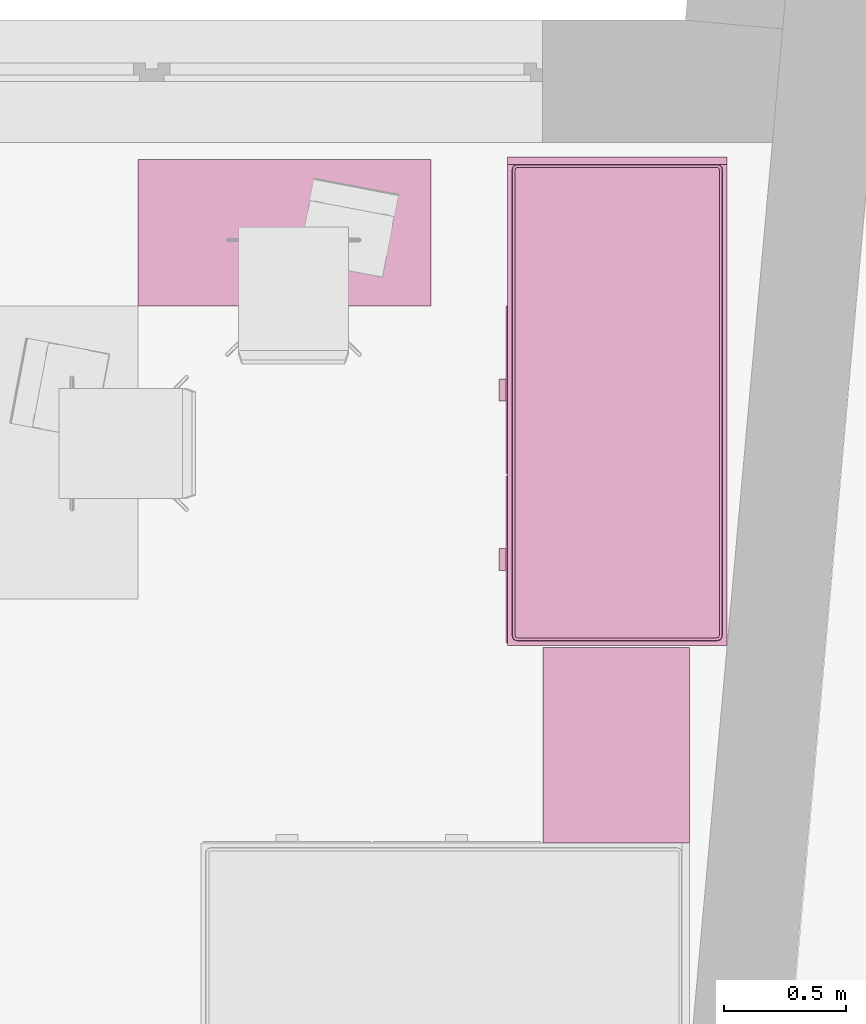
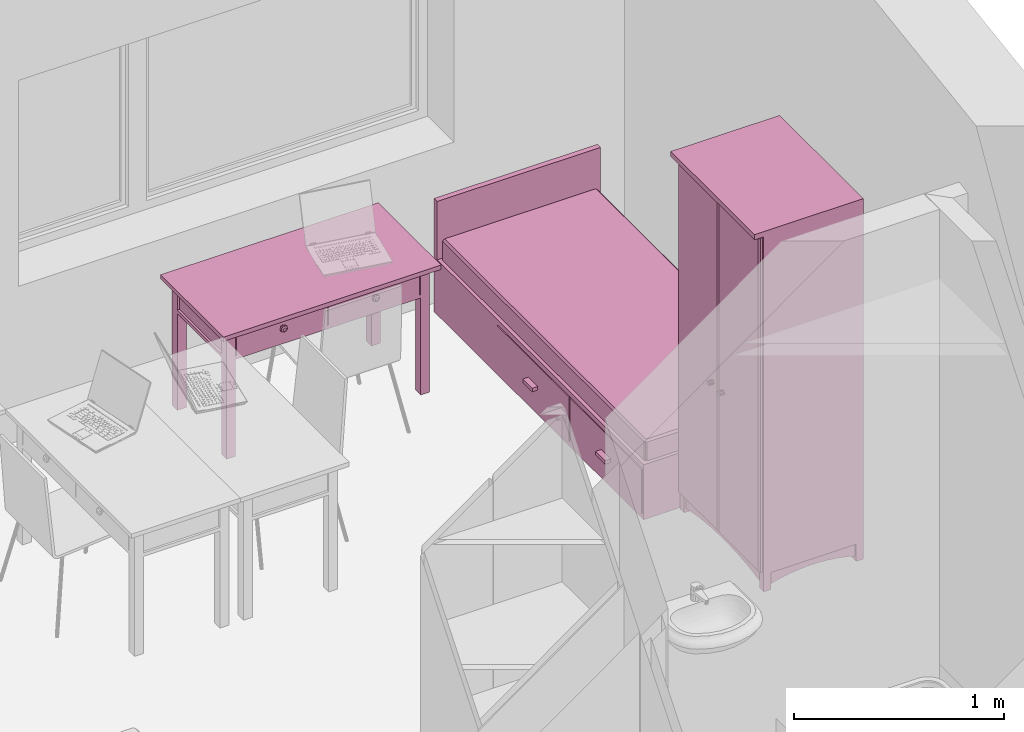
# One storey, part 154 of 172: 3 furnishings.
"""IFC2X3 building model written with IfcOpenShell, lengths in millimetres."""

from ifc_helpers import new_model, entity, si_unit, converted_unit, money_unit, direction, frame, origin_with_axes, place, context, subcontext, project, spatial, faceted_brep, source, transform, mapped, material, material_list, type_object, element, save


model = new_model("IFC2X3")

# Units and contexts
model_context = context("Model", 3, precision=1e-05, world=origin_with_axes(), true_north=direction((0.0, 1.0)))
body_context = subcontext(model_context, "Body", "Model", "MODEL_VIEW")
ifc_project = project(units=[si_unit("LENGTHUNIT", "METRE", prefix="MILLI"), si_unit("AREAUNIT", "SQUARE_METRE"), si_unit("VOLUMEUNIT", "CUBIC_METRE"), converted_unit("PLANEANGLEUNIT", "DEGREE", entity("IfcPlaneAngleMeasure", 0.0174532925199), si_unit("PLANEANGLEUNIT", "RADIAN"), dimensions=[0, 0, 0, 0, 0, 0, 0]), si_unit("SOLIDANGLEUNIT", "STERADIAN"), money_unit("USD"), converted_unit("TIMEUNIT", "Year", entity("IfcTimeMeasure", 31556926.0), si_unit("TIMEUNIT", "SECOND"), dimensions=[0, 0, 0, 0, 0, 0, 0]), si_unit("MASSUNIT", "GRAM"), si_unit("THERMODYNAMICTEMPERATUREUNIT", "DEGREE_CELSIUS"), si_unit("LUMINOUSINTENSITYUNIT", "LUMEN")], contexts=[model_context])

# Site, building, storey
site_placement = place(None, origin_with_axes())
site = spatial("IfcSite", under=ifc_project, at=site_placement, Name="Site", CompositionType="ELEMENT")
building_placement = place(site_placement, origin_with_axes())
building = spatial("IfcBuilding", under=site, at=building_placement, Name="Building", CompositionType="ELEMENT")
storey_placement = place(building_placement, frame((0.0, 0.0, 3200.0), z_axis=(0.0, 0.0, 1.0), x_axis=(1.0, 0.0, 0.0)))
storey = spatial("IfcBuildingStorey", under=building, at=storey_placement, Name="3KORRUS", CompositionType="ELEMENT", Elevation=3200.0)

# Furnishings
ifc_material = material(Name="Background")
ifc_material_list = material_list([ifc_material])
furnishing_element_type_1 = type_object("IfcFurnishingElementType", Name="Cupboard 19")
shared_shape_1 = source(origin_with_axes(), body_context, "Body", "Brep", [
    faceted_brep([(-780.0, 600.0, 120.0), (-780.0, 580.0, 120.0), (-780.0, 580.0, 2050.0), (-780.0, 600.0, 2050.0), (-20.0, 600.0, 120.0), (-20.0, 580.0, 120.0), (-20.0, 580.0, 2050.0), (-20.0, 600.0, 2050.0)], [[[0, 1, 2, 3]], [[0, 4, 5, 1]], [[1, 5, 6, 2]], [[3, 2, 6, 7]], [[4, 0, 3, 7]], [[5, 4, 7, 6]]]),
    faceted_brep([(0.0, 50.0, 100.0), (-20.0, 50.0, 100.0), (-20.0, 600.0, 100.0), (0.0, 600.0, 100.0), (0.0, 50.0, 2070.0), (-20.0, 50.0, 2070.0), (-20.0, 600.0, 2070.0), (0.0, 600.0, 2070.0)], [[[0, 1, 2, 3]], [[1, 0, 4, 5]], [[2, 1, 5, 6]], [[3, 2, 6, 7]], [[0, 3, 7, 4]], [[5, 4, 7, 6]]]),
    faceted_brep([(-780.0, 50.0, 100.0), (-800.0, 50.0, 100.0), (-800.0, 600.0, 100.0), (-780.0, 600.0, 100.0), (-780.0, 50.0, 2070.0), (-800.0, 50.0, 2070.0), (-800.0, 600.0, 2070.0), (-780.0, 600.0, 2070.0)], [[[0, 1, 2, 3]], [[1, 0, 4, 5]], [[2, 1, 5, 6]], [[3, 2, 6, 7]], [[0, 3, 7, 4]], [[5, 4, 7, 6]]]),
    faceted_brep([(-20.0, 50.0, 100.0), (-780.0, 50.0, 100.0), (-780.0, 600.0, 100.0), (-20.0, 600.0, 100.0), (-20.0, 50.0, 120.0), (-780.0, 50.0, 120.0), (-780.0, 600.0, 120.0), (-20.0, 600.0, 120.0)], [[[0, 1, 2, 3]], [[1, 0, 4, 5]], [[2, 1, 5, 6]], [[3, 2, 6, 7]], [[0, 3, 7, 4]], [[5, 4, 7, 6]]]),
    faceted_brep([(-20.0, 50.0, 2050.0), (-780.0, 50.0, 2050.0), (-780.0, 600.0, 2050.0), (-20.0, 600.0, 2050.0), (-20.0, 50.0, 2070.0), (-780.0, 50.0, 2070.0), (-780.0, 600.0, 2070.0), (-20.0, 600.0, 2070.0)], [[[0, 1, 2, 3]], [[1, 0, 4, 5]], [[2, 1, 5, 6]], [[3, 2, 6, 7]], [[0, 3, 7, 4]], [[5, 4, 7, 6]]]),
    faceted_brep([(0.0, 600.0, 2070.0), (0.0, 600.0, 2100.0), (0.0, 0.0, 2100.0), (0.0, 0.0, 2070.0), (-800.0, 600.0, 2070.0), (-800.0, 600.0, 2100.0), (-800.0, 0.0, 2100.0), (-800.0, 0.0, 2070.0)], [[[0, 1, 2, 3]], [[4, 5, 1, 0]], [[1, 5, 6, 2]], [[3, 2, 6, 7]], [[0, 3, 7, 4]], [[7, 6, 5, 4]]]),
    faceted_brep([(-760.0, 590.0, 25.0), (-640.962, 590.0, 45.8), (-640.962, 570.0, 45.8), (-760.0, 570.0, 25.0), (-760.0, 590.0, 100.0), (-40.0, 590.0, 100.0), (-40.0, 590.0, 25.0), (-159.038, 590.0, 45.8), (-279.23, 590.0, 58.32), (-400.0, 590.0, 62.5), (-520.77, 590.0, 58.32), (-520.77, 570.0, 58.32), (-400.0, 570.0, 62.5), (-279.23, 570.0, 58.32), (-159.038, 570.0, 45.8), (-40.0, 570.0, 25.0), (-40.0, 570.0, 100.0), (-760.0, 570.0, 100.0)], [[[0, 1, 2, 3]], [[0, 4, 5, 6, 7, 8, 9, 10, 1]], [[1, 10, 11, 2]], [[3, 2, 11, 12, 13, 14, 15, 16, 17]], [[4, 0, 3, 17]], [[5, 4, 17, 16]], [[6, 5, 16, 15]], [[7, 6, 15, 14]], [[8, 7, 14, 13]], [[9, 8, 13, 12]], [[10, 9, 12, 11]]]),
    faceted_brep([(-760.0, 80.0, 25.0), (-640.962, 80.0, 45.8), (-640.962, 60.0, 45.8), (-760.0, 60.0, 25.0), (-760.0, 80.0, 100.0), (-40.0, 80.0, 100.0), (-40.0, 80.0, 25.0), (-159.038, 80.0, 45.8), (-279.23, 80.0, 58.32), (-400.0, 80.0, 62.5), (-520.77, 80.0, 58.32), (-520.77, 60.0, 58.32), (-400.0, 60.0, 62.5), (-279.23, 60.0, 58.32), (-159.038, 60.0, 45.8), (-40.0, 60.0, 25.0), (-40.0, 60.0, 100.0), (-760.0, 60.0, 100.0)], [[[0, 1, 2, 3]], [[0, 4, 5, 6, 7, 8, 9, 10, 1]], [[1, 10, 11, 2]], [[3, 2, 11, 12, 13, 14, 15, 16, 17]], [[4, 0, 3, 17]], [[5, 4, 17, 16]], [[6, 5, 16, 15]], [[7, 6, 15, 14]], [[8, 7, 14, 13]], [[9, 8, 13, 12]], [[10, 9, 12, 11]]]),
    faceted_brep([(-790.0, 90.0, 25.0), (-790.0, 141.266, 38.072), (-770.0, 141.266, 38.072), (-770.0, 90.0, 25.0), (-790.0, 90.0, 100.0), (-790.0, 560.0, 100.0), (-790.0, 560.0, 25.0), (-790.0, 508.734, 38.072), (-790.0, 456.752, 47.92), (-790.0, 404.257, 54.508), (-790.0, 351.453, 57.808), (-790.0, 298.547, 57.808), (-790.0, 245.743, 54.508), (-790.0, 193.248, 47.92), (-770.0, 193.248, 47.92), (-770.0, 245.743, 54.508), (-770.0, 298.547, 57.808), (-770.0, 351.453, 57.808), (-770.0, 404.257, 54.508), (-770.0, 456.752, 47.92), (-770.0, 508.734, 38.072), (-770.0, 560.0, 25.0), (-770.0, 560.0, 100.0), (-770.0, 90.0, 100.0)], [[[0, 1, 2, 3]], [[0, 4, 5, 6, 7, 8, 9, 10, 11, 12, 13, 1]], [[1, 13, 14, 2]], [[3, 2, 14, 15, 16, 17, 18, 19, 20, 21, 22, 23]], [[4, 0, 3, 23]], [[5, 4, 23, 22]], [[6, 5, 22, 21]], [[7, 6, 21, 20]], [[8, 7, 20, 19]], [[9, 8, 19, 18]], [[10, 9, 18, 17]], [[11, 10, 17, 16]], [[12, 11, 16, 15]], [[13, 12, 15, 14]]]),
    faceted_brep([(-30.0, 90.0, 25.0), (-30.0, 141.266, 38.072), (-10.0, 141.266, 38.072), (-10.0, 90.0, 25.0), (-30.0, 90.0, 100.0), (-30.0, 560.0, 100.0), (-30.0, 560.0, 25.0), (-30.0, 508.734, 38.072), (-30.0, 456.752, 47.92), (-30.0, 404.257, 54.508), (-30.0, 351.453, 57.808), (-30.0, 298.547, 57.808), (-30.0, 245.743, 54.508), (-30.0, 193.248, 47.92), (-10.0, 193.248, 47.92), (-10.0, 245.743, 54.508), (-10.0, 298.547, 57.808), (-10.0, 351.453, 57.808), (-10.0, 404.257, 54.508), (-10.0, 456.752, 47.92), (-10.0, 508.734, 38.072), (-10.0, 560.0, 25.0), (-10.0, 560.0, 100.0), (-10.0, 90.0, 100.0)], [[[0, 1, 2, 3]], [[0, 4, 5, 6, 7, 8, 9, 10, 11, 12, 13, 1]], [[1, 13, 14, 2]], [[3, 2, 14, 15, 16, 17, 18, 19, 20, 21, 22, 23]], [[4, 0, 3, 23]], [[5, 4, 23, 22]], [[6, 5, 22, 21]], [[7, 6, 21, 20]], [[8, 7, 20, 19]], [[9, 8, 19, 18]], [[10, 9, 18, 17]], [[11, 10, 17, 16]], [[12, 11, 16, 15]], [[13, 12, 15, 14]]]),
    faceted_brep([(-760.0, 560.0, 0.0), (-760.0, 600.0, 0.0), (-760.0, 600.0, 100.0), (-760.0, 560.0, 100.0), (-800.0, 560.0, 0.0), (-800.0, 600.0, 0.0), (-800.0, 600.0, 100.0), (-800.0, 560.0, 100.0)], [[[0, 1, 2, 3]], [[0, 4, 5, 1]], [[1, 5, 6, 2]], [[3, 2, 6, 7]], [[4, 0, 3, 7]], [[5, 4, 7, 6]]]),
    faceted_brep([(0.0, 560.0, 0.0), (0.0, 600.0, 0.0), (0.0, 600.0, 100.0), (0.0, 560.0, 100.0), (-40.0, 560.0, 0.0), (-40.0, 600.0, 0.0), (-40.0, 600.0, 100.0), (-40.0, 560.0, 100.0)], [[[0, 1, 2, 3]], [[0, 4, 5, 1]], [[1, 5, 6, 2]], [[3, 2, 6, 7]], [[4, 0, 3, 7]], [[5, 4, 7, 6]]]),
    faceted_brep([(-760.0, 50.0, 0.0), (-760.0, 90.0, 0.0), (-760.0, 90.0, 100.0), (-760.0, 50.0, 100.0), (-800.0, 50.0, 0.0), (-800.0, 90.0, 0.0), (-800.0, 90.0, 100.0), (-800.0, 50.0, 100.0)], [[[0, 1, 2, 3]], [[0, 4, 5, 1]], [[1, 5, 6, 2]], [[3, 2, 6, 7]], [[4, 0, 3, 7]], [[5, 4, 7, 6]]]),
    faceted_brep([(0.0, 50.0, 0.0), (0.0, 90.0, 0.0), (0.0, 90.0, 100.0), (0.0, 50.0, 100.0), (-40.0, 50.0, 0.0), (-40.0, 90.0, 0.0), (-40.0, 90.0, 100.0), (-40.0, 50.0, 100.0)], [[[0, 1, 2, 3]], [[0, 4, 5, 1]], [[1, 5, 6, 2]], [[3, 2, 6, 7]], [[4, 0, 3, 7]], [[5, 4, 7, 6]]]),
    faceted_brep([(-780.0, 580.0, 587.5), (-780.0, 50.0, 587.5), (-780.0, 50.0, 607.5), (-780.0, 580.0, 607.5), (-20.0, 580.0, 587.5), (-20.0, 50.0, 587.5), (-20.0, 50.0, 607.5), (-20.0, 580.0, 607.5)], [[[0, 1, 2, 3]], [[0, 4, 5, 1]], [[1, 5, 6, 2]], [[3, 2, 6, 7]], [[4, 0, 3, 7]], [[5, 4, 7, 6]]]),
    faceted_brep([(-780.0, 580.0, 1075.0), (-780.0, 50.0, 1075.0), (-780.0, 50.0, 1095.0), (-780.0, 580.0, 1095.0), (-20.0, 580.0, 1075.0), (-20.0, 50.0, 1075.0), (-20.0, 50.0, 1095.0), (-20.0, 580.0, 1095.0)], [[[0, 1, 2, 3]], [[0, 4, 5, 1]], [[1, 5, 6, 2]], [[3, 2, 6, 7]], [[4, 0, 3, 7]], [[5, 4, 7, 6]]]),
    faceted_brep([(-780.0, 580.0, 1562.5), (-780.0, 50.0, 1562.5), (-780.0, 50.0, 1582.5), (-780.0, 580.0, 1582.5), (-20.0, 580.0, 1562.5), (-20.0, 50.0, 1562.5), (-20.0, 50.0, 1582.5), (-20.0, 580.0, 1582.5)], [[[0, 1, 2, 3]], [[0, 4, 5, 1]], [[1, 5, 6, 2]], [[3, 2, 6, 7]], [[4, 0, 3, 7]], [[5, 4, 7, 6]]]),
    faceted_brep([(-789.5, 50.0, 110.5), (-789.5, 50.0, 2059.5), (-400.5, 50.0, 2059.5), (-400.5, 50.0, 110.5), (-789.5, 40.0, 110.5), (-789.5, 40.0, 2059.5), (-400.5, 40.0, 2059.5), (-400.5, 40.0, 110.5), (-779.5, 30.0, 120.5), (-779.5, 30.0, 2049.5), (-410.5, 30.0, 2049.5), (-410.5, 30.0, 120.5)], [[[0, 1, 2, 3]], [[1, 0, 4, 5]], [[2, 1, 5, 6]], [[3, 2, 6, 7]], [[0, 3, 7, 4]], [[5, 4, 8, 9]], [[6, 5, 9, 10]], [[7, 6, 10, 11]], [[4, 7, 11, 8]], [[10, 9, 8, 11]]]),
    faceted_brep([(-399.5, 50.0, 110.5), (-399.5, 50.0, 2059.5), (-10.5, 50.0, 2059.5), (-10.5, 50.0, 110.5), (-399.5, 40.0, 110.5), (-399.5, 40.0, 2059.5), (-10.5, 40.0, 2059.5), (-10.5, 40.0, 110.5), (-389.5, 30.0, 120.5), (-389.5, 30.0, 2049.5), (-20.5, 30.0, 2049.5), (-20.5, 30.0, 120.5)], [[[0, 1, 2, 3]], [[1, 0, 4, 5]], [[2, 1, 5, 6]], [[3, 2, 6, 7]], [[0, 3, 7, 4]], [[5, 4, 8, 9]], [[6, 5, 9, 10]], [[7, 6, 10, 11]], [[4, 7, 11, 8]], [[10, 9, 8, 11]]]),
    faceted_brep([(-339.608, 30.0, 954.0), (-344.0, 30.0, 949.608), (-350.0, 30.0, 948.0), (-356.0, 30.0, 949.608), (-360.392, 30.0, 954.0), (-362.0, 30.0, 960.0), (-360.392, 30.0, 966.0), (-356.0, 30.0, 970.392), (-350.0, 30.0, 972.0), (-344.0, 30.0, 970.392), (-339.608, 30.0, 966.0), (-338.0, 30.0, 960.0), (-339.608, 5.0, 954.0), (-344.0, 5.0, 949.608), (-350.0, 5.0, 948.0), (-356.0, 5.0, 949.608), (-360.392, 5.0, 954.0), (-362.0, 5.0, 960.0), (-360.392, 5.0, 966.0), (-356.0, 5.0, 970.392), (-350.0, 5.0, 972.0), (-344.0, 5.0, 970.392), (-339.608, 5.0, 966.0), (-338.0, 5.0, 960.0)], [[[0, 1, 2, 3, 4, 5, 6, 7, 8, 9, 10, 11]], [[1, 0, 12, 13]], [[2, 1, 13, 14]], [[3, 2, 14, 15]], [[4, 3, 15, 16]], [[5, 4, 16, 17]], [[6, 5, 17, 18]], [[7, 6, 18, 19]], [[8, 7, 19, 20]], [[9, 8, 20, 21]], [[10, 9, 21, 22]], [[11, 10, 22, 23]], [[0, 11, 23, 12]], [[12, 23, 22, 21, 20, 19, 18, 17, 16, 15, 14, 13]]]),
    faceted_brep([(-460.392, 30.0, 954.0), (-462.0, 30.0, 960.0), (-460.392, 30.0, 966.0), (-456.0, 30.0, 970.392), (-450.0, 30.0, 972.0), (-444.0, 30.0, 970.392), (-439.608, 30.0, 966.0), (-438.0, 30.0, 960.0), (-439.608, 30.0, 954.0), (-444.0, 30.0, 949.608), (-450.0, 30.0, 948.0), (-456.0, 30.0, 949.608), (-460.392, 5.0, 954.0), (-462.0, 5.0, 960.0), (-460.392, 5.0, 966.0), (-456.0, 5.0, 970.392), (-450.0, 5.0, 972.0), (-444.0, 5.0, 970.392), (-439.608, 5.0, 966.0), (-438.0, 5.0, 960.0), (-439.608, 5.0, 954.0), (-444.0, 5.0, 949.608), (-450.0, 5.0, 948.0), (-456.0, 5.0, 949.608)], [[[0, 1, 2, 3, 4, 5, 6, 7, 8, 9, 10, 11]], [[0, 12, 13, 1]], [[1, 13, 14, 2]], [[2, 14, 15, 3]], [[3, 15, 16, 4]], [[4, 16, 17, 5]], [[5, 17, 18, 6]], [[6, 18, 19, 7]], [[7, 19, 20, 8]], [[8, 20, 21, 9]], [[9, 21, 22, 10]], [[10, 22, 23, 11]], [[11, 23, 12, 0]], [[12, 23, 22, 21, 20, 19, 18, 17, 16, 15, 14, 13]]]),
])
furnishing_1_placement = place(storey_placement, frame((17405.2633787, -8007.54794148, 0.0), z_axis=(0.0, 0.0, 1.0), x_axis=(0.0, -1.0, 0.0)))
element("IfcFurnishingElement", 1, at=furnishing_1_placement, inside=storey, type_object=furnishing_element_type_1, material=ifc_material_list, Name="FU - 014", context=body_context, shape_type="MappedRepresentation", body=[
    mapped(shared_shape_1, transform((0.0, 0.0, 0.0))),
])
furnishing_element_type_2 = type_object("IfcFurnishingElementType", Name="Bed 19")
shared_shape_2 = source(origin_with_axes(), body_context, "Body", "Brep", [
    faceted_brep([(-900.0, 1970.0, 0.0), (-900.0, 2000.0, 0.0), (0.0, 2000.0, 0.0), (0.0, 1970.0, 0.0), (-900.0, 1970.0, 660.0), (-900.0, 2000.0, 660.0), (0.0, 2000.0, 660.0), (0.0, 1970.0, 660.0)], [[[0, 1, 2, 3]], [[0, 4, 5, 1]], [[1, 5, 6, 2]], [[2, 6, 7, 3]], [[3, 7, 4, 0]], [[7, 6, 5, 4]]]),
    faceted_brep([(-900.0, 0.0, 0.0), (-900.0, 1970.0, 0.0), (0.0, 1970.0, 0.0), (0.0, 0.0, 0.0), (-900.0, 0.0, 320.0), (-900.0, 1970.0, 320.0), (0.0, 1970.0, 320.0), (0.0, 0.0, 320.0)], [[[0, 1, 2, 3]], [[0, 4, 5, 1]], [[1, 5, 6, 2]], [[2, 6, 7, 3]], [[3, 7, 4, 0]], [[7, 6, 5, 4]]]),
    faceted_brep([(-905.0, 10.0, 30.0), (-905.0, 695.0, 30.0), (-900.0, 695.0, 30.0), (-900.0, 10.0, 30.0), (-905.0, 10.0, 290.0), (-905.0, 695.0, 290.0), (-900.0, 695.0, 290.0), (-900.0, 10.0, 290.0)], [[[0, 1, 2, 3]], [[0, 4, 5, 1]], [[1, 5, 6, 2]], [[2, 6, 7, 3]], [[3, 7, 4, 0]], [[7, 6, 5, 4]]]),
    faceted_brep([(-935.0, 307.5, 150.0), (-935.0, 397.5, 150.0), (-905.0, 397.5, 150.0), (-905.0, 307.5, 150.0), (-935.0, 307.5, 170.0), (-935.0, 397.5, 170.0), (-905.0, 397.5, 170.0), (-905.0, 307.5, 170.0)], [[[0, 1, 2, 3]], [[0, 4, 5, 1]], [[1, 5, 6, 2]], [[2, 6, 7, 3]], [[3, 7, 4, 0]], [[7, 6, 5, 4]]]),
    faceted_brep([(-905.0, 705.0, 30.0), (-905.0, 1390.0, 30.0), (-900.0, 1390.0, 30.0), (-900.0, 705.0, 30.0), (-905.0, 705.0, 290.0), (-905.0, 1390.0, 290.0), (-900.0, 1390.0, 290.0), (-900.0, 705.0, 290.0)], [[[0, 1, 2, 3]], [[0, 4, 5, 1]], [[1, 5, 6, 2]], [[2, 6, 7, 3]], [[3, 7, 4, 0]], [[7, 6, 5, 4]]]),
    faceted_brep([(-935.0, 1002.5, 150.0), (-935.0, 1092.5, 150.0), (-905.0, 1092.5, 150.0), (-905.0, 1002.5, 150.0), (-935.0, 1002.5, 170.0), (-935.0, 1092.5, 170.0), (-905.0, 1092.5, 170.0), (-905.0, 1002.5, 170.0)], [[[0, 1, 2, 3]], [[0, 4, 5, 1]], [[1, 5, 6, 2]], [[2, 6, 7, 3]], [[3, 7, 4, 0]], [[7, 6, 5, 4]]]),
    faceted_brep([(-20.0, 40.0, 350.0), (-21.522, 32.346, 350.0), (-25.858, 25.858, 350.0), (-32.346, 21.522, 350.0), (-40.0, 20.0, 350.0), (-860.0, 20.0, 350.0), (-867.654, 21.522, 350.0), (-874.142, 25.858, 350.0), (-878.478, 32.346, 350.0), (-880.0, 40.0, 350.0), (-880.0, 1950.0, 350.0), (-878.478, 1957.654, 350.0), (-874.142, 1964.142, 350.0), (-867.654, 1968.478, 350.0), (-860.0, 1970.0, 350.0), (-40.0, 1970.0, 350.0), (-32.346, 1968.478, 350.0), (-25.858, 1964.142, 350.0), (-21.522, 1957.654, 350.0), (-20.0, 1950.0, 350.0), (-20.0, 40.0, 420.0), (-21.522, 32.346, 420.0), (-25.858, 25.858, 420.0), (-32.346, 21.522, 420.0), (-40.0, 20.0, 420.0), (-860.0, 20.0, 420.0), (-867.654, 21.522, 420.0), (-874.142, 25.858, 420.0), (-878.478, 32.346, 420.0), (-880.0, 40.0, 420.0), (-880.0, 1950.0, 420.0), (-878.478, 1957.654, 420.0), (-874.142, 1964.142, 420.0), (-867.654, 1968.478, 420.0), (-860.0, 1970.0, 420.0), (-40.0, 1970.0, 420.0), (-32.346, 1968.478, 420.0), (-25.858, 1964.142, 420.0), (-21.522, 1957.654, 420.0), (-20.0, 1950.0, 420.0), (-21.522, 40.15, 427.654), (-22.956, 32.94, 427.654), (-26.955, 26.955, 427.654), (-32.94, 22.956, 427.654), (-40.15, 21.522, 427.654), (-859.85, 21.522, 427.654), (-867.06, 22.956, 427.654), (-873.045, 26.955, 427.654), (-877.044, 32.94, 427.654), (-878.478, 40.15, 427.654), (-878.478, 1949.85, 427.654), (-877.044, 1957.06, 427.654), (-873.045, 1963.045, 427.654), (-867.06, 1967.044, 427.654), (-859.85, 1968.478, 427.654), (-40.15, 1968.478, 427.654), (-32.94, 1967.044, 427.654), (-26.955, 1963.045, 427.654), (-22.956, 1957.06, 427.654), (-21.522, 1949.85, 427.654), (-32.346, 41.216, 438.478), (-33.152, 37.164, 438.478), (-34.759, 34.759, 438.478), (-37.164, 33.152, 438.478), (-41.216, 32.346, 438.478), (-858.784, 32.346, 438.478), (-862.836, 33.152, 438.478), (-865.241, 34.759, 438.478), (-866.848, 37.164, 438.478), (-867.654, 41.216, 438.478), (-867.654, 1948.784, 438.478), (-866.848, 1952.836, 438.478), (-865.241, 1955.241, 438.478), (-862.836, 1956.848, 438.478), (-858.784, 1957.654, 438.478), (-41.216, 1957.654, 438.478), (-37.164, 1956.848, 438.478), (-34.759, 1955.241, 438.478), (-33.152, 1952.836, 438.478), (-32.346, 1948.784, 438.478), (-40.0, 41.97, 440.0), (-40.327, 40.327, 440.0), (-40.0, 40.0, 439.924), (-41.97, 40.0, 440.0), (-858.03, 40.0, 440.0), (-859.673, 40.327, 440.0), (-860.0, 40.0, 439.924), (-860.0, 41.97, 440.0), (-860.0, 1948.03, 440.0), (-859.673, 1949.673, 440.0), (-860.0, 1950.0, 439.924), (-858.03, 1950.0, 440.0), (-41.97, 1950.0, 440.0), (-40.327, 1949.673, 440.0), (-40.0, 1950.0, 439.924), (-40.0, 1948.03, 440.0)], [[[0, 1, 2, 3, 4, 5, 6, 7, 8, 9, 10, 11, 12, 13, 14, 15, 16, 17, 18, 19]], [[0, 20, 21, 1]], [[1, 21, 22, 2]], [[2, 22, 23, 3]], [[3, 23, 24, 4]], [[4, 24, 25, 5]], [[5, 25, 26, 6]], [[6, 26, 27, 7]], [[7, 27, 28, 8]], [[8, 28, 29, 9]], [[9, 29, 30, 10]], [[10, 30, 31, 11]], [[11, 31, 32, 12]], [[12, 32, 33, 13]], [[13, 33, 34, 14]], [[14, 34, 35, 15]], [[15, 35, 36, 16]], [[16, 36, 37, 17]], [[17, 37, 38, 18]], [[18, 38, 39, 19]], [[19, 39, 20, 0]], [[20, 40, 41, 21]], [[21, 41, 42, 22]], [[22, 42, 43, 23]], [[23, 43, 44, 24]], [[24, 44, 45, 25]], [[25, 45, 46, 26]], [[26, 46, 47, 27]], [[27, 47, 48, 28]], [[28, 48, 49, 29]], [[29, 49, 50, 30]], [[30, 50, 51, 31]], [[31, 51, 52, 32]], [[32, 52, 53, 33]], [[33, 53, 54, 34]], [[34, 54, 55, 35]], [[35, 55, 56, 36]], [[36, 56, 57, 37]], [[37, 57, 58, 38]], [[38, 58, 59, 39]], [[39, 59, 40, 20]], [[40, 60, 61, 41]], [[41, 61, 62, 42]], [[42, 62, 63, 43]], [[43, 63, 64, 44]], [[44, 64, 65, 45]], [[45, 65, 66, 46]], [[46, 66, 67, 47]], [[47, 67, 68, 48]], [[48, 68, 69, 49]], [[49, 69, 70, 50]], [[50, 70, 71, 51]], [[51, 71, 72, 52]], [[52, 72, 73, 53]], [[53, 73, 74, 54]], [[54, 74, 75, 55]], [[55, 75, 76, 56]], [[56, 76, 77, 57]], [[57, 77, 78, 58]], [[58, 78, 79, 59]], [[59, 79, 60, 40]], [[60, 80, 81, 82, 61]], [[61, 82, 62]], [[62, 82, 63]], [[63, 82, 81, 83, 64]], [[64, 83, 84, 65]], [[65, 84, 85, 86, 66]], [[66, 86, 67]], [[67, 86, 68]], [[68, 86, 85, 87, 69]], [[69, 87, 88, 70]], [[70, 88, 89, 90, 71]], [[71, 90, 72]], [[72, 90, 73]], [[73, 90, 89, 91, 74]], [[74, 91, 92, 75]], [[75, 92, 93, 94, 76]], [[76, 94, 77]], [[77, 94, 78]], [[78, 94, 93, 95, 79]], [[79, 95, 80, 60]], [[95, 93, 92, 91, 89, 88, 87, 85, 84, 83, 81, 80]]]),
    faceted_brep([(-20.0, 40.0, 350.0), (-20.0, 1950.0, 350.0), (-21.522, 1957.654, 350.0), (-25.858, 1964.142, 350.0), (-32.346, 1968.478, 350.0), (-40.0, 1970.0, 350.0), (-860.0, 1970.0, 350.0), (-867.654, 1968.478, 350.0), (-874.142, 1964.142, 350.0), (-878.478, 1957.654, 350.0), (-880.0, 1950.0, 350.0), (-880.0, 40.0, 350.0), (-878.478, 32.346, 350.0), (-874.142, 25.858, 350.0), (-867.654, 21.522, 350.0), (-860.0, 20.0, 350.0), (-40.0, 20.0, 350.0), (-32.346, 21.522, 350.0), (-25.858, 25.858, 350.0), (-21.522, 32.346, 350.0), (-20.0, 40.0, 320.0), (-20.0, 1950.0, 320.0), (-21.522, 1957.654, 320.0), (-25.858, 1964.142, 320.0), (-32.346, 1968.478, 320.0), (-40.0, 1970.0, 320.0), (-860.0, 1970.0, 320.0), (-867.654, 1968.478, 320.0), (-874.142, 1964.142, 320.0), (-878.478, 1957.654, 320.0), (-880.0, 1950.0, 320.0), (-880.0, 40.0, 320.0), (-878.478, 32.346, 320.0), (-874.142, 25.858, 320.0), (-867.654, 21.522, 320.0), (-860.0, 20.0, 320.0), (-40.0, 20.0, 320.0), (-32.346, 21.522, 320.0), (-25.858, 25.858, 320.0), (-21.522, 32.346, 320.0)], [[[0, 1, 2, 3, 4, 5, 6, 7, 8, 9, 10, 11, 12, 13, 14, 15, 16, 17, 18, 19]], [[1, 0, 20, 21]], [[2, 1, 21, 22]], [[3, 2, 22, 23]], [[4, 3, 23, 24]], [[5, 4, 24, 25]], [[6, 5, 25, 26]], [[7, 6, 26, 27]], [[8, 7, 27, 28]], [[9, 8, 28, 29]], [[10, 9, 29, 30]], [[11, 10, 30, 31]], [[12, 11, 31, 32]], [[13, 12, 32, 33]], [[14, 13, 33, 34]], [[15, 14, 34, 35]], [[16, 15, 35, 36]], [[17, 16, 36, 37]], [[18, 17, 37, 38]], [[19, 18, 38, 39]], [[0, 19, 39, 20]], [[20, 39, 38, 37, 36, 35, 34, 33, 32, 31, 30, 29, 28, 27, 26, 25, 24, 23, 22, 21]]]),
])
furnishing_2_placement = place(storey_placement, frame((18160.00296, -7200.27456091, 0.0), z_axis=(0.0, 0.0, 1.0), x_axis=(1.0, 0.0, 0.0)))
element("IfcFurnishingElement", 2, at=furnishing_2_placement, inside=storey, type_object=furnishing_element_type_2, material=ifc_material_list, Name="FU - 013", context=body_context, shape_type="MappedRepresentation", body=[
    mapped(shared_shape_2, transform((0.0, 0.0, 0.0))),
])
furnishing_element_type_3 = type_object("IfcFurnishingElementType", Name="Rectangular Table 01 19")
shared_shape_3 = source(origin_with_axes(), body_context, "Body", "Brep", [
    faceted_brep([(-90.0, 40.0, 0.0), (-90.0, 90.0, 0.0), (-40.0, 90.0, 0.0), (-40.0, 40.0, 0.0), (-90.0, 40.0, 725.0), (-90.0, 90.0, 725.0), (-40.0, 90.0, 725.0), (-40.0, 40.0, 725.0)], [[[0, 1, 2, 3]], [[0, 4, 5, 1]], [[1, 5, 6, 2]], [[2, 6, 7, 3]], [[3, 7, 4, 0]], [[7, 6, 5, 4]]]),
    faceted_brep([(-1160.0, 40.0, 0.0), (-1160.0, 90.0, 0.0), (-1110.0, 90.0, 0.0), (-1110.0, 40.0, 0.0), (-1160.0, 40.0, 725.0), (-1160.0, 90.0, 725.0), (-1110.0, 90.0, 725.0), (-1110.0, 40.0, 725.0)], [[[0, 1, 2, 3]], [[0, 4, 5, 1]], [[1, 5, 6, 2]], [[2, 6, 7, 3]], [[3, 7, 4, 0]], [[7, 6, 5, 4]]]),
    faceted_brep([(-90.0, 510.0, 0.0), (-90.0, 560.0, 0.0), (-40.0, 560.0, 0.0), (-40.0, 510.0, 0.0), (-90.0, 510.0, 725.0), (-90.0, 560.0, 725.0), (-40.0, 560.0, 725.0), (-40.0, 510.0, 725.0)], [[[0, 1, 2, 3]], [[0, 4, 5, 1]], [[1, 5, 6, 2]], [[2, 6, 7, 3]], [[3, 7, 4, 0]], [[7, 6, 5, 4]]]),
    faceted_brep([(-1160.0, 510.0, 0.0), (-1160.0, 560.0, 0.0), (-1110.0, 560.0, 0.0), (-1110.0, 510.0, 0.0), (-1160.0, 510.0, 725.0), (-1160.0, 560.0, 725.0), (-1110.0, 560.0, 725.0), (-1110.0, 510.0, 725.0)], [[[0, 1, 2, 3]], [[0, 4, 5, 1]], [[1, 5, 6, 2]], [[2, 6, 7, 3]], [[3, 7, 4, 0]], [[7, 6, 5, 4]]]),
    faceted_brep([(-1160.0, 40.0, 565.0), (-1160.0, 560.0, 565.0), (-40.0, 560.0, 565.0), (-40.0, 40.0, 565.0), (-1160.0, 40.0, 585.0), (-1160.0, 560.0, 585.0), (-40.0, 560.0, 585.0), (-40.0, 40.0, 585.0)], [[[0, 1, 2, 3]], [[0, 4, 5, 1]], [[1, 5, 6, 2]], [[2, 6, 7, 3]], [[3, 7, 4, 0]], [[7, 6, 5, 4]]]),
    faceted_brep([(-1110.0, 52.5, 585.0), (-1110.0, 77.5, 585.0), (-90.0, 77.5, 585.0), (-90.0, 52.5, 585.0), (-1110.0, 52.5, 745.0), (-1110.0, 77.5, 745.0), (-90.0, 77.5, 745.0), (-90.0, 52.5, 745.0)], [[[0, 1, 2, 3]], [[0, 4, 5, 1]], [[1, 5, 6, 2]], [[2, 6, 7, 3]], [[3, 7, 4, 0]], [[7, 6, 5, 4]]]),
    faceted_brep([(-77.5, 90.0, 585.0), (-77.5, 510.0, 585.0), (-52.5, 510.0, 585.0), (-52.5, 90.0, 585.0), (-77.5, 90.0, 745.0), (-77.5, 510.0, 745.0), (-52.5, 510.0, 745.0), (-52.5, 90.0, 745.0)], [[[0, 1, 2, 3]], [[0, 4, 5, 1]], [[1, 5, 6, 2]], [[2, 6, 7, 3]], [[3, 7, 4, 0]], [[7, 6, 5, 4]]]),
    faceted_brep([(-90.0, 547.5, 585.0), (-90.0, 522.5, 585.0), (-1110.0, 522.5, 585.0), (-1110.0, 547.5, 585.0), (-90.0, 547.5, 745.0), (-90.0, 522.5, 745.0), (-1110.0, 522.5, 745.0), (-1110.0, 547.5, 745.0)], [[[0, 1, 2, 3]], [[0, 4, 5, 1]], [[1, 5, 6, 2]], [[2, 6, 7, 3]], [[3, 7, 4, 0]], [[7, 6, 5, 4]]]),
    faceted_brep([(-1122.5, 510.0, 585.0), (-1122.5, 90.0, 585.0), (-1147.5, 90.0, 585.0), (-1147.5, 510.0, 585.0), (-1122.5, 510.0, 745.0), (-1122.5, 90.0, 745.0), (-1147.5, 90.0, 745.0), (-1147.5, 510.0, 745.0)], [[[0, 1, 2, 3]], [[0, 4, 5, 1]], [[1, 5, 6, 2]], [[2, 6, 7, 3]], [[3, 7, 4, 0]], [[7, 6, 5, 4]]]),
    faceted_brep([(-597.5, 40.0, 585.0), (-597.5, 60.0, 585.0), (-95.0, 60.0, 585.0), (-95.0, 40.0, 585.0), (-597.5, 40.0, 745.0), (-597.5, 60.0, 745.0), (-95.0, 60.0, 745.0), (-95.0, 40.0, 745.0)], [[[0, 1, 2, 3]], [[0, 4, 5, 1]], [[1, 5, 6, 2]], [[2, 6, 7, 3]], [[3, 7, 4, 0]], [[7, 6, 5, 4]]]),
    faceted_brep([(-1105.0, 40.0, 585.0), (-1105.0, 60.0, 585.0), (-602.5, 60.0, 585.0), (-602.5, 40.0, 585.0), (-1105.0, 40.0, 745.0), (-1105.0, 60.0, 745.0), (-602.5, 60.0, 745.0), (-602.5, 40.0, 745.0)], [[[0, 1, 2, 3]], [[0, 4, 5, 1]], [[1, 5, 6, 2]], [[2, 6, 7, 3]], [[3, 7, 4, 0]], [[7, 6, 5, 4]]]),
    faceted_brep([(-354.91, 40.0, 660.0), (-356.25, 40.0, 665.0), (-354.91, 40.0, 670.0), (-351.25, 40.0, 673.66), (-346.25, 40.0, 675.0), (-341.25, 40.0, 673.66), (-337.59, 40.0, 670.0), (-336.25, 40.0, 665.0), (-337.59, 40.0, 660.0), (-341.25, 40.0, 656.34), (-346.25, 40.0, 655.0), (-351.25, 40.0, 656.34), (-354.91, 25.0, 660.0), (-356.25, 25.0, 665.0), (-354.91, 25.0, 670.0), (-351.25, 25.0, 673.66), (-346.25, 25.0, 675.0), (-341.25, 25.0, 673.66), (-337.59, 25.0, 670.0), (-336.25, 25.0, 665.0), (-337.59, 25.0, 660.0), (-341.25, 25.0, 656.34), (-346.25, 25.0, 655.0), (-351.25, 25.0, 656.34)], [[[0, 1, 2, 3, 4, 5, 6, 7, 8, 9, 10, 11]], [[0, 12, 13, 1]], [[1, 13, 14, 2]], [[2, 14, 15, 3]], [[3, 15, 16, 4]], [[4, 16, 17, 5]], [[5, 17, 18, 6]], [[6, 18, 19, 7]], [[7, 19, 20, 8]], [[8, 20, 21, 9]], [[9, 21, 22, 10]], [[10, 22, 23, 11]], [[11, 23, 12, 0]], [[12, 23, 22, 21, 20, 19, 18, 17, 16, 15, 14, 13]]]),
    faceted_brep([(-356.25, 12.01, 665.0), (-354.91, 12.01, 660.0), (-346.25, 10.0, 665.0), (-363.571, 17.5, 665.0), (-361.25, 17.5, 656.34), (-351.25, 12.01, 656.34), (-354.91, 12.01, 670.0), (-366.25, 25.0, 665.0), (-363.571, 25.0, 655.0), (-354.91, 17.5, 650.0), (-361.25, 17.5, 673.66), (-346.25, 12.01, 655.0), (-351.25, 12.01, 673.66), (-363.571, 25.0, 675.0), (-356.25, 25.0, 682.321), (-346.25, 25.0, 685.0), (-336.25, 25.0, 682.321), (-328.929, 25.0, 675.0), (-326.25, 25.0, 665.0), (-328.929, 25.0, 655.0), (-336.25, 25.0, 647.679), (-346.25, 25.0, 645.0), (-356.25, 25.0, 647.679), (-346.25, 17.5, 647.679), (-354.91, 17.5, 680.0), (-341.25, 12.01, 656.34), (-346.25, 12.01, 675.0), (-346.25, 17.5, 682.321), (-337.59, 17.5, 680.0), (-331.25, 17.5, 673.66), (-328.929, 17.5, 665.0), (-331.25, 17.5, 656.34), (-337.59, 17.5, 650.0), (-337.59, 12.01, 660.0), (-341.25, 12.01, 673.66), (-337.59, 12.01, 670.0), (-336.25, 12.01, 665.0)], [[[0, 1, 2]], [[3, 4, 1, 0]], [[1, 5, 2]], [[6, 0, 2]], [[7, 8, 4, 3]], [[4, 9, 5, 1]], [[10, 3, 0, 6]], [[5, 11, 2]], [[12, 6, 2]], [[8, 7, 13, 14, 15, 16, 17, 18, 19, 20, 21, 22]], [[8, 22, 9, 4]], [[13, 7, 3, 10]], [[9, 23, 11, 5]], [[24, 10, 6, 12]], [[11, 25, 2]], [[26, 12, 2]], [[14, 13, 10, 24]], [[15, 14, 24, 27]], [[16, 15, 27, 28]], [[17, 16, 28, 29]], [[18, 17, 29, 30]], [[19, 18, 30, 31]], [[20, 19, 31, 32]], [[21, 20, 32, 23]], [[22, 21, 23, 9]], [[23, 32, 25, 11]], [[27, 24, 12, 26]], [[25, 33, 2]], [[34, 26, 2]], [[28, 27, 26, 34]], [[29, 28, 34, 35]], [[30, 29, 35, 36]], [[31, 30, 36, 33]], [[32, 31, 33, 25]], [[33, 36, 2]], [[35, 34, 2]], [[36, 35, 2]]]),
    faceted_brep([(-862.41, 40.0, 660.0), (-863.75, 40.0, 665.0), (-862.41, 40.0, 670.0), (-858.75, 40.0, 673.66), (-853.75, 40.0, 675.0), (-848.75, 40.0, 673.66), (-845.09, 40.0, 670.0), (-843.75, 40.0, 665.0), (-845.09, 40.0, 660.0), (-848.75, 40.0, 656.34), (-853.75, 40.0, 655.0), (-858.75, 40.0, 656.34), (-862.41, 25.0, 660.0), (-863.75, 25.0, 665.0), (-862.41, 25.0, 670.0), (-858.75, 25.0, 673.66), (-853.75, 25.0, 675.0), (-848.75, 25.0, 673.66), (-845.09, 25.0, 670.0), (-843.75, 25.0, 665.0), (-845.09, 25.0, 660.0), (-848.75, 25.0, 656.34), (-853.75, 25.0, 655.0), (-858.75, 25.0, 656.34)], [[[0, 1, 2, 3, 4, 5, 6, 7, 8, 9, 10, 11]], [[0, 12, 13, 1]], [[1, 13, 14, 2]], [[2, 14, 15, 3]], [[3, 15, 16, 4]], [[4, 16, 17, 5]], [[5, 17, 18, 6]], [[6, 18, 19, 7]], [[7, 19, 20, 8]], [[8, 20, 21, 9]], [[9, 21, 22, 10]], [[10, 22, 23, 11]], [[11, 23, 12, 0]], [[12, 23, 22, 21, 20, 19, 18, 17, 16, 15, 14, 13]]]),
    faceted_brep([(-863.75, 12.01, 665.0), (-862.41, 12.01, 660.0), (-853.75, 10.0, 665.0), (-871.071, 17.5, 665.0), (-868.75, 17.5, 656.34), (-858.75, 12.01, 656.34), (-862.41, 12.01, 670.0), (-873.75, 25.0, 665.0), (-871.071, 25.0, 655.0), (-862.41, 17.5, 650.0), (-868.75, 17.5, 673.66), (-853.75, 12.01, 655.0), (-858.75, 12.01, 673.66), (-871.071, 25.0, 675.0), (-863.75, 25.0, 682.321), (-853.75, 25.0, 685.0), (-843.75, 25.0, 682.321), (-836.429, 25.0, 675.0), (-833.75, 25.0, 665.0), (-836.429, 25.0, 655.0), (-843.75, 25.0, 647.679), (-853.75, 25.0, 645.0), (-863.75, 25.0, 647.679), (-853.75, 17.5, 647.679), (-862.41, 17.5, 680.0), (-848.75, 12.01, 656.34), (-853.75, 12.01, 675.0), (-853.75, 17.5, 682.321), (-845.09, 17.5, 680.0), (-838.75, 17.5, 673.66), (-836.429, 17.5, 665.0), (-838.75, 17.5, 656.34), (-845.09, 17.5, 650.0), (-845.09, 12.01, 660.0), (-848.75, 12.01, 673.66), (-845.09, 12.01, 670.0), (-843.75, 12.01, 665.0)], [[[0, 1, 2]], [[3, 4, 1, 0]], [[1, 5, 2]], [[6, 0, 2]], [[7, 8, 4, 3]], [[4, 9, 5, 1]], [[10, 3, 0, 6]], [[5, 11, 2]], [[12, 6, 2]], [[8, 7, 13, 14, 15, 16, 17, 18, 19, 20, 21, 22]], [[8, 22, 9, 4]], [[13, 7, 3, 10]], [[9, 23, 11, 5]], [[24, 10, 6, 12]], [[11, 25, 2]], [[26, 12, 2]], [[14, 13, 10, 24]], [[15, 14, 24, 27]], [[16, 15, 27, 28]], [[17, 16, 28, 29]], [[18, 17, 29, 30]], [[19, 18, 30, 31]], [[20, 19, 31, 32]], [[21, 20, 32, 23]], [[22, 21, 23, 9]], [[23, 32, 25, 11]], [[27, 24, 12, 26]], [[25, 33, 2]], [[34, 26, 2]], [[28, 27, 26, 34]], [[29, 28, 34, 35]], [[30, 29, 35, 36]], [[31, 30, 36, 33]], [[32, 31, 33, 25]], [[33, 36, 2]], [[35, 34, 2]], [[36, 35, 2]]]),
    faceted_brep([(-1200.0, 0.0, 725.0), (-1200.0, 600.0, 725.0), (0.0, 600.0, 725.0), (0.0, 0.0, 725.0), (-1200.0, 0.0, 750.0), (-1200.0, 600.0, 750.0), (0.0, 600.0, 750.0), (0.0, 0.0, 750.0)], [[[0, 1, 2, 3]], [[0, 4, 5, 1]], [[1, 5, 6, 2]], [[2, 6, 7, 3]], [[3, 7, 4, 0]], [[7, 6, 5, 4]]]),
])
furnishing_3_placement = place(storey_placement, frame((16947.396797, -5809.21572375, 0.0), z_axis=(0.0, 0.0, 1.0), x_axis=(1.0, 0.0, 0.0)))
element("IfcFurnishingElement", 3, at=furnishing_3_placement, inside=storey, type_object=furnishing_element_type_3, material=ifc_material_list, Name="FU - 011", context=body_context, shape_type="MappedRepresentation", body=[
    mapped(shared_shape_3, transform((0.0, 0.0, 0.0))),
])

save(model, "model.ifc")
